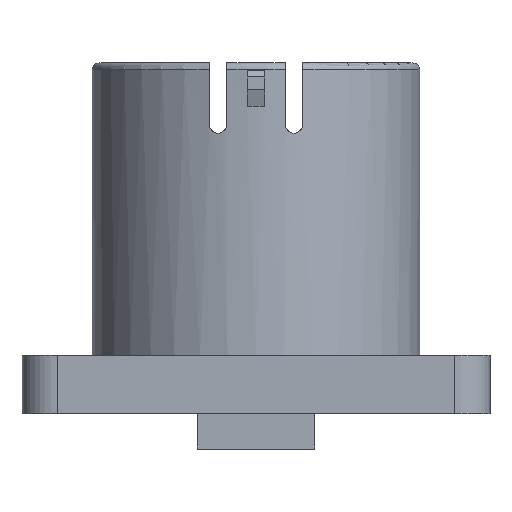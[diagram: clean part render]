
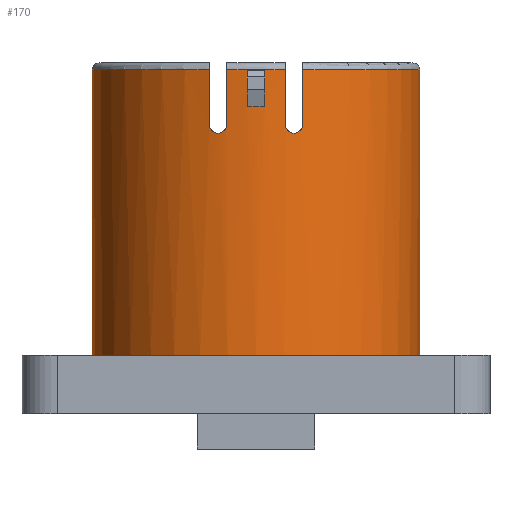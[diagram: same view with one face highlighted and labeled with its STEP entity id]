
A CAD part, front view. The second image highlights one B-rep face of the part: STEP entity #170.
In plain terms, the highlighted cylindrical face has radius 14 mm (diameter 28 mm), a partial arc.
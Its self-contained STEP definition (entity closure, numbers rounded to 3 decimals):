
#170=ADVANCED_FACE('NONE',(#421,#422),#423,.T.);
#421=FACE_OUTER_BOUND('',#749,.T.);
#422=FACE_BOUND('',#750,.T.);
#423=CYLINDRICAL_SURFACE('',#751,14.0);
#749=EDGE_LOOP('',(#1234,#1235,#1236,#1237,#1238,#1239,#1240,#1241,#1242,#1243,#1244,#1245,#1246,#1247));
#750=EDGE_LOOP('',(#1248,#1249,#1250,#1251));
#751=AXIS2_PLACEMENT_3D('',#1252,#1253,#1254);
#1234=ORIENTED_EDGE('',*,*,#2019,.F.);
#1235=ORIENTED_EDGE('',*,*,#2013,.T.);
#1236=ORIENTED_EDGE('',*,*,#2078,.F.);
#1237=ORIENTED_EDGE('',*,*,#1937,.F.);
#1238=ORIENTED_EDGE('',*,*,#2079,.F.);
#1239=ORIENTED_EDGE('',*,*,#2080,.F.);
#1240=ORIENTED_EDGE('',*,*,#2081,.T.);
#1241=ORIENTED_EDGE('',*,*,#2082,.F.);
#1242=ORIENTED_EDGE('',*,*,#1942,.F.);
#1243=ORIENTED_EDGE('',*,*,#2083,.F.);
#1244=ORIENTED_EDGE('',*,*,#2084,.F.);
#1245=ORIENTED_EDGE('',*,*,#2085,.T.);
#1246=ORIENTED_EDGE('',*,*,#2021,.T.);
#1247=ORIENTED_EDGE('',*,*,#2086,.F.);
#1248=ORIENTED_EDGE('',*,*,#2087,.F.);
#1249=ORIENTED_EDGE('',*,*,#2088,.T.);
#1250=ORIENTED_EDGE('',*,*,#2089,.F.);
#1251=ORIENTED_EDGE('',*,*,#2090,.F.);
#1252=CARTESIAN_POINT('',(0.0,0.0,-1.432));
#1253=DIRECTION('',(0.0,0.0,1.0));
#1254=DIRECTION('',(-1.0,0.0,0.0));
#1937=EDGE_CURVE('NONE',#2310,#2312,#2313,.T.);
#1942=EDGE_CURVE('NONE',#2319,#2321,#2322,.T.);
#2013=EDGE_CURVE('NONE',#2443,#2444,#2445,.T.);
#2019=EDGE_CURVE('NONE',#2443,#2454,#2455,.T.);
#2021=EDGE_CURVE('NONE',#2290,#2456,#2458,.T.);
#2078=EDGE_CURVE('NONE',#2312,#2444,#2553,.T.);
#2079=EDGE_CURVE('NONE',#2554,#2310,#2555,.T.);
#2080=EDGE_CURVE('NONE',#2556,#2554,#2557,.T.);
#2081=EDGE_CURVE('NONE',#2556,#2558,#2559,.T.);
#2082=EDGE_CURVE('NONE',#2321,#2558,#2560,.T.);
#2083=EDGE_CURVE('NONE',#2561,#2319,#2562,.T.);
#2084=EDGE_CURVE('NONE',#2563,#2561,#2564,.T.);
#2085=EDGE_CURVE('NONE',#2563,#2290,#2565,.T.);
#2086=EDGE_CURVE('NONE',#2454,#2456,#2566,.T.);
#2087=EDGE_CURVE('NONE',#2567,#2568,#2569,.T.);
#2088=EDGE_CURVE('NONE',#2567,#2570,#2571,.T.);
#2089=EDGE_CURVE('NONE',#2572,#2570,#2573,.T.);
#2090=EDGE_CURVE('NONE',#2568,#2572,#2574,.T.);
#2290=VERTEX_POINT('NONE',#2824);
#2310=VERTEX_POINT('NONE',#2874);
#2312=VERTEX_POINT('NONE',#2877);
#2313=B_SPLINE_CURVE_WITH_KNOTS('',3,(#2878,#2879,#2880,#2881,#2882,#2883,#2884,#2885,#2886,#2887),.UNSPECIFIED.,.F.,.F.,(4,2,2,2,4),(0.0,0.,0.001,0.001,0.001),.UNSPECIFIED.);
#2319=VERTEX_POINT('NONE',#2899);
#2321=VERTEX_POINT('NONE',#2902);
#2322=B_SPLINE_CURVE_WITH_KNOTS('',3,(#2903,#2904,#2905,#2906,#2907,#2908,#2909,#2910,#2911,#2912),.UNSPECIFIED.,.F.,.F.,(4,2,2,2,4),(0.0,0.,0.001,0.001,0.001),.UNSPECIFIED.);
#2443=VERTEX_POINT('NONE',#3106);
#2444=VERTEX_POINT('NONE',#3107);
#2445=CIRCLE('',#3108,14.0);
#2454=VERTEX_POINT('NONE',#3122);
#2455=LINE('',#3123,#3124);
#2456=VERTEX_POINT('NONE',#3125);
#2458=LINE('',#3127,#3128);
#2553=LINE('',#3323,#3324);
#2554=VERTEX_POINT('NONE',#3325);
#2555=B_SPLINE_CURVE_WITH_KNOTS('',3,(#3326,#3327,#3328,#3329,#3330,#3331),.UNSPECIFIED.,.F.,.F.,(4,2,4),(0.004,0.004,0.005),.UNSPECIFIED.);
#2556=VERTEX_POINT('NONE',#3332);
#2557=LINE('',#3333,#3334);
#2558=VERTEX_POINT('NONE',#3335);
#2559=CIRCLE('',#3336,14.0);
#2560=LINE('',#3337,#3338);
#2561=VERTEX_POINT('NONE',#3339);
#2562=B_SPLINE_CURVE_WITH_KNOTS('',3,(#3340,#3341,#3342,#3343,#3344,#3345),.UNSPECIFIED.,.F.,.F.,(4,2,4),(0.004,0.004,0.005),.UNSPECIFIED.);
#2563=VERTEX_POINT('NONE',#3346);
#2564=LINE('',#3347,#3348);
#2565=CIRCLE('',#3349,14.0);
#2566=CIRCLE('',#3350,14.0);
#2567=VERTEX_POINT('NONE',#3351);
#2568=VERTEX_POINT('NONE',#3352);
#2569=(B_SPLINE_CURVE(3,(#3354,#3355,#3356,#3357),.UNSPECIFIED.,.F.,.F.)B_SPLINE_CURVE_WITH_KNOTS((4,4),(3.088,3.195),.UNSPECIFIED.)RATIONAL_B_SPLINE_CURVE((1.0,0.999,0.999,1.0))BOUNDED_CURVE()REPRESENTATION_ITEM('')GEOMETRIC_REPRESENTATION_ITEM()CURVE());
#2570=VERTEX_POINT('NONE',#3364);
#2571=LINE('',#3365,#3366);
#2572=VERTEX_POINT('NONE',#3367);
#2573=(B_SPLINE_CURVE(3,(#3369,#3370,#3371,#3372),.UNSPECIFIED.,.F.,.F.)B_SPLINE_CURVE_WITH_KNOTS((4,4),(6.23,6.337),.UNSPECIFIED.)RATIONAL_B_SPLINE_CURVE((1.0,0.999,0.999,1.0))BOUNDED_CURVE()REPRESENTATION_ITEM('')GEOMETRIC_REPRESENTATION_ITEM()CURVE());
#2574=LINE('',#3379,#3380);
#2824=CARTESIAN_POINT('',(-14.0,0.0,29.4));
#2874=CARTESIAN_POINT('',(3.25,-13.618,24.0));
#2877=CARTESIAN_POINT('',(4.0,-13.416,24.75));
#2878=CARTESIAN_POINT('',(3.25,-13.618,24.0));
#2879=CARTESIAN_POINT('',(3.348,-13.594,24.0));
#2880=CARTESIAN_POINT('',(3.444,-13.57,24.019));
#2881=CARTESIAN_POINT('',(3.624,-13.523,24.093));
#2882=CARTESIAN_POINT('',(3.707,-13.501,24.147));
#2883=CARTESIAN_POINT('',(3.846,-13.462,24.285));
#2884=CARTESIAN_POINT('',(3.903,-13.445,24.368));
#2885=CARTESIAN_POINT('',(3.98,-13.423,24.55));
#2886=CARTESIAN_POINT('',(4.0,-13.416,24.651));
#2887=CARTESIAN_POINT('',(4.0,-13.416,24.75));
#2899=CARTESIAN_POINT('',(-3.25,-13.618,24.0));
#2902=CARTESIAN_POINT('',(-2.5,-13.775,24.75));
#2903=CARTESIAN_POINT('',(-3.25,-13.618,24.0));
#2904=CARTESIAN_POINT('',(-3.152,-13.641,24.0));
#2905=CARTESIAN_POINT('',(-3.057,-13.663,24.019));
#2906=CARTESIAN_POINT('',(-2.876,-13.702,24.093));
#2907=CARTESIAN_POINT('',(-2.793,-13.719,24.148));
#2908=CARTESIAN_POINT('',(-2.653,-13.747,24.285));
#2909=CARTESIAN_POINT('',(-2.596,-13.757,24.369));
#2910=CARTESIAN_POINT('',(-2.52,-13.771,24.551));
#2911=CARTESIAN_POINT('',(-2.5,-13.775,24.651));
#2912=CARTESIAN_POINT('',(-2.5,-13.775,24.75));
#3106=CARTESIAN_POINT('',(14.0,0.,29.4));
#3107=CARTESIAN_POINT('',(4.0,-13.416,29.4));
#3108=AXIS2_PLACEMENT_3D('',#3880,#3881,#3882);
#3122=CARTESIAN_POINT('',(14.0,0.,5.0));
#3123=CARTESIAN_POINT('',(14.0,0.,-1.432));
#3124=VECTOR('',#3892,1000.0);
#3125=CARTESIAN_POINT('',(-14.0,0.0,5.0));
#3127=CARTESIAN_POINT('',(-14.0,0.0,-1.432));
#3128=VECTOR('',#3896,1000.0);
#3323=CARTESIAN_POINT('',(4.0,-13.416,-1.432));
#3324=VECTOR('',#3964,1000.0);
#3325=CARTESIAN_POINT('',(2.5,-13.775,24.75));
#3326=CARTESIAN_POINT('',(2.5,-13.775,24.75));
#3327=CARTESIAN_POINT('',(2.5,-13.775,24.551));
#3328=CARTESIAN_POINT('',(2.583,-13.76,24.354));
#3329=CARTESIAN_POINT('',(2.862,-13.705,24.079));
#3330=CARTESIAN_POINT('',(3.055,-13.664,24.0));
#3331=CARTESIAN_POINT('',(3.25,-13.618,24.0));
#3332=CARTESIAN_POINT('',(2.5,-13.775,29.4));
#3333=CARTESIAN_POINT('',(2.5,-13.775,-1.432));
#3334=VECTOR('',#3965,1000.0);
#3335=CARTESIAN_POINT('',(-2.5,-13.775,29.4));
#3336=AXIS2_PLACEMENT_3D('',#3966,#3967,#3968);
#3337=CARTESIAN_POINT('',(-2.5,-13.775,-1.432));
#3338=VECTOR('',#3969,1000.0);
#3339=CARTESIAN_POINT('',(-4.0,-13.416,24.75));
#3340=CARTESIAN_POINT('',(-4.0,-13.416,24.75));
#3341=CARTESIAN_POINT('',(-4.0,-13.416,24.55));
#3342=CARTESIAN_POINT('',(-3.915,-13.442,24.353));
#3343=CARTESIAN_POINT('',(-3.637,-13.52,24.079));
#3344=CARTESIAN_POINT('',(-3.446,-13.571,24.0));
#3345=CARTESIAN_POINT('',(-3.25,-13.618,24.0));
#3346=CARTESIAN_POINT('',(-4.0,-13.416,29.4));
#3347=CARTESIAN_POINT('',(-4.0,-13.416,-1.432));
#3348=VECTOR('',#3970,1000.0);
#3349=AXIS2_PLACEMENT_3D('',#3971,#3972,#3973);
#3350=AXIS2_PLACEMENT_3D('',#3974,#3975,#3976);
#3351=CARTESIAN_POINT('',(-0.75,-13.98,26.271));
#3352=CARTESIAN_POINT('',(0.75,-13.98,26.271));
#3354=CARTESIAN_POINT('',(-0.75,-13.98,26.271));
#3355=CARTESIAN_POINT('',(-0.25,-14.007,26.345));
#3356=CARTESIAN_POINT('',(0.25,-14.007,26.345));
#3357=CARTESIAN_POINT('',(0.75,-13.98,26.271));
#3364=CARTESIAN_POINT('',(-0.75,-13.98,29.32));
#3365=CARTESIAN_POINT('',(-0.75,-13.98,-1.432));
#3366=VECTOR('',#3977,1000.0);
#3367=CARTESIAN_POINT('',(0.75,-13.98,29.32));
#3369=CARTESIAN_POINT('',(0.75,-13.98,29.32));
#3370=CARTESIAN_POINT('',(0.25,-14.007,29.293));
#3371=CARTESIAN_POINT('',(-0.25,-14.007,29.293));
#3372=CARTESIAN_POINT('',(-0.75,-13.98,29.32));
#3379=CARTESIAN_POINT('',(0.75,-13.98,-1.432));
#3380=VECTOR('',#3978,1000.0);
#3880=CARTESIAN_POINT('',(0.0,0.0,29.4));
#3881=DIRECTION('',(0.0,0.0,-1.0));
#3882=DIRECTION('',(1.0,0.0,0.0));
#3892=DIRECTION('',(-0.0,-0.0,-1.0));
#3896=DIRECTION('',(-0.0,-0.0,-1.0));
#3964=DIRECTION('',(0.0,0.0,1.0));
#3965=DIRECTION('',(-0.0,-0.0,-1.0));
#3966=CARTESIAN_POINT('',(0.0,0.0,29.4));
#3967=DIRECTION('',(0.0,0.0,-1.0));
#3968=DIRECTION('',(1.0,0.0,0.0));
#3969=DIRECTION('',(0.0,0.0,1.0));
#3970=DIRECTION('',(-0.0,-0.0,-1.0));
#3971=CARTESIAN_POINT('',(0.0,0.0,29.4));
#3972=DIRECTION('',(0.0,0.0,-1.0));
#3973=DIRECTION('',(1.0,0.0,0.0));
#3974=CARTESIAN_POINT('',(0.0,0.0,5.0));
#3975=DIRECTION('',(0.0,0.0,-1.0));
#3976=DIRECTION('',(-1.0,0.0,0.0));
#3977=DIRECTION('',(0.0,0.0,1.0));
#3978=DIRECTION('',(0.0,0.0,1.0));
